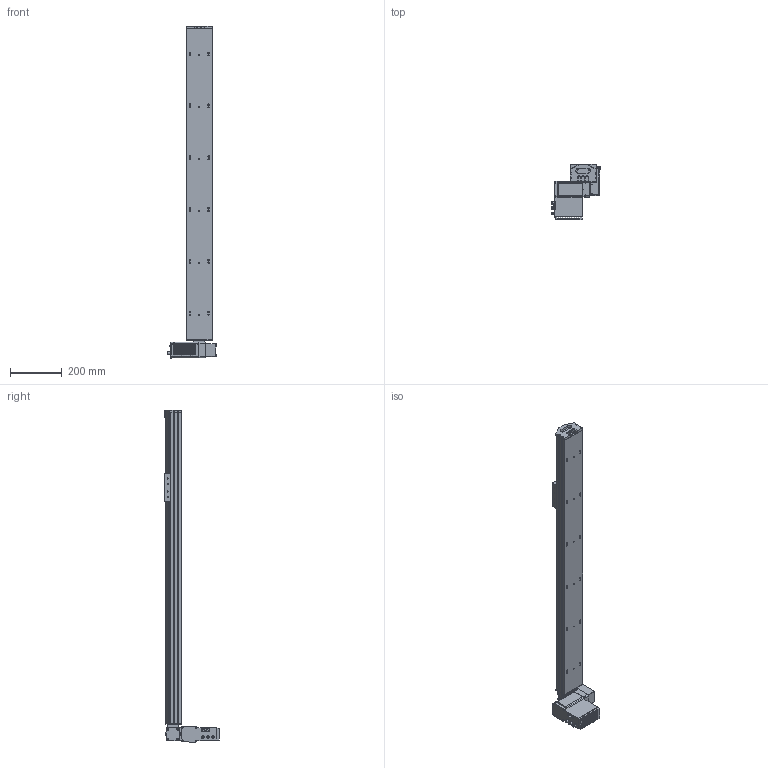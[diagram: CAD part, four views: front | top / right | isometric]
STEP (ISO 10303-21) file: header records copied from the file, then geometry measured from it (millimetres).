
FILE_DESCRIPTION (( 'STEP AP203' ), '1' );
FILE_NAME ('S10 CBH LU S1200.STEP', '2012-10-01T06:54:07', ( '' ), ( '' ), 'SwSTEP 2.0', 'SolidWorks 2010', '' );
FILE_SCHEMA (( 'CONFIG_CONTROL_DESIGN' ));
Length unit declared in the file: millimetre
Products named in the file (14): Plaque racord_Default; cache t皻e_Default; vis M5 L5_Default; axe 1200; embout; S10 CBH LU S1200; plaque de bout s10_Default; cache t皻e axe_Default; renvoi LH_Default; Vis M5 L16-2_Default_1; vis M5 L12_Default; Cvis M5 L30_Default; palette tbh; MOTEUR GMI 61 
Assembly tree (24 placements, depth 2):
  S10 CBH LU S1200
    vis M5 L5_Default  x4
    Cvis M5 L30_Default  x2
    Vis M5 L16-2_Default_1  x4
    plaque de bout s10_Default
    cache t皻e axe_Default
    cache t皻e_Default  x2
    axe 1200
    vis M5 L12_Default  x4
    renvoi LH_Default
    Plaque racord_Default
    embout
    palette tbh
    MOTEUR GMI 61 
Bounding box: 189.8 x 211.75 x 1279.5 mm (x, y, z)
Volume: 7429295.8 mm3; surface area: 801483.5 mm2
Topology: 24 solids, 24 shells, 1064 faces, 2582 edges, 1602 vertices
Faces by surface type: plane 541, cylinder 380, cone 96, bspline 40, torus 7
Entity records: 26679 total; most frequent: CARTESIAN_POINT 4965, DIRECTION 4289, ORIENTED_EDGE 3992, EDGE_CURVE 1996, AXIS2_PLACEMENT_3D 1520, VERTEX_POINT 1290, VECTOR 1249, LINE 1249
